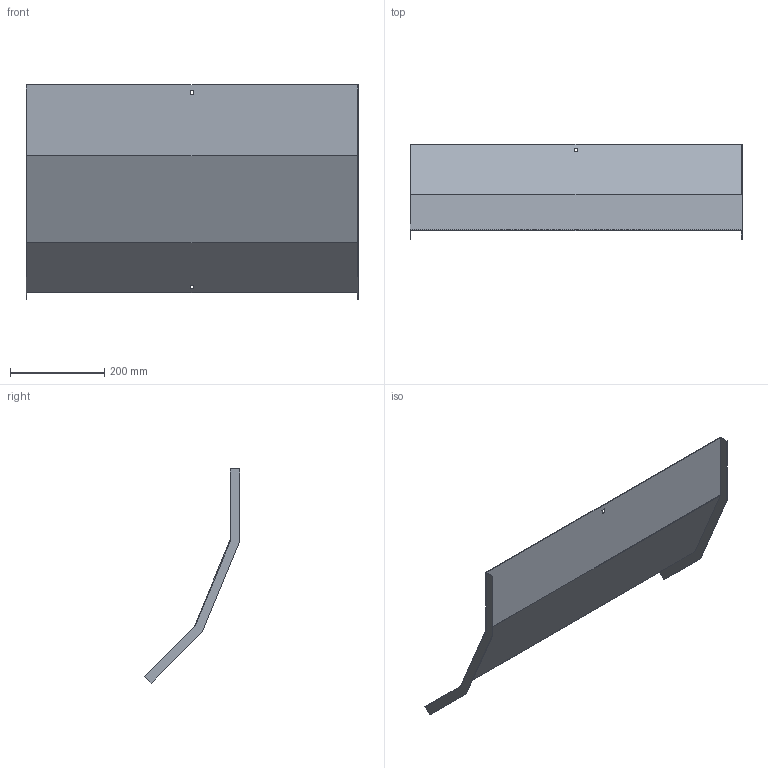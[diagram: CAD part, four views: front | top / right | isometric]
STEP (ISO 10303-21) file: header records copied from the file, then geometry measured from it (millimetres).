
FILE_DESCRIPTION (( 'STEP AP214' ), '1' );
FILE_NAME ('B2X31N5R700X.step', '2025-03-20T09:42:57', ( '' ), ( '' ), 'SwSTEP 2.0', 'SolidWorks 2023', '' );
FILE_SCHEMA (( 'AUTOMOTIVE_DESIGN' ));
Length unit declared in the file: millimetre
Products named in the file (1): B2X31N5R700X
Bounding box: 703 x 201.89 x 453.26 mm (x, y, z)
Volume: 553819.5 mm3; surface area: 742279.2 mm2
Topology: 1 solids, 1 shells, 26 faces, 72 edges, 48 vertices
Faces by surface type: plane 26
Entity records: 847 total; most frequent: CARTESIAN_POINT 147, ORIENTED_EDGE 144, DIRECTION 126, EDGE_CURVE 72, LINE 72, VECTOR 72, VERTEX_POINT 48, EDGE_LOOP 30
